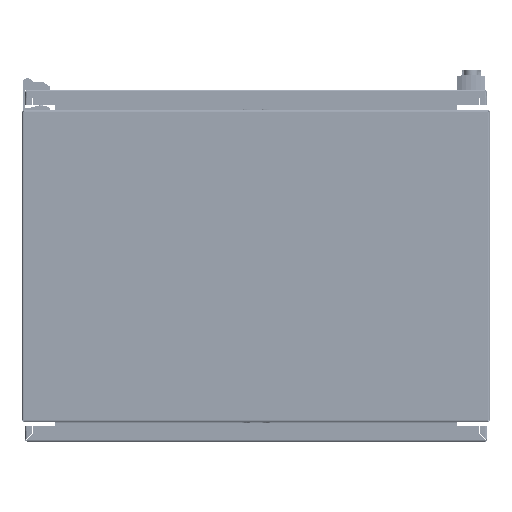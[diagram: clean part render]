
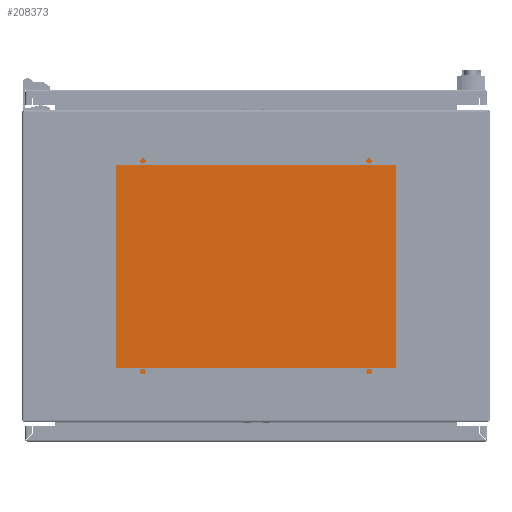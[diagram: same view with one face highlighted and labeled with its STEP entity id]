
A CAD part, front view. The second image highlights one B-rep face of the part: STEP entity #208373.
In plain terms, the highlighted planar face has unit normal (0, -1, 0).
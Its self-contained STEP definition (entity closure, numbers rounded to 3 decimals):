
#30748 = CARTESIAN_POINT ( 'NONE',  ( 144.5, 2003., 135. ) ) ;
#31502 = CARTESIAN_POINT ( 'NONE',  ( 145.5, 2003., 135. ) ) ;
#31505 = DIRECTION ( 'NONE',  ( 1., 0., 0. ) ) ;
#31508 = DIRECTION ( 'NONE',  ( 0., -1., 0. ) ) ;
#31510 = CARTESIAN_POINT ( 'NONE',  ( 145., 2003., 135. ) ) ;
#31513 = AXIS2_PLACEMENT_3D ( 'NONE', #31510, #31508, #31505 ) ;
#31516 = CIRCLE ( 'NONE', #31513, 0.5 ) ;
#35881 = CARTESIAN_POINT ( 'NONE',  ( -144.5, 2003., 135. ) ) ;
#35899 = DIRECTION ( 'NONE',  ( 1., 0., 0. ) ) ;
#35902 = DIRECTION ( 'NONE',  ( 0., -1., 0. ) ) ;
#35905 = CARTESIAN_POINT ( 'NONE',  ( -145., 2003., 135. ) ) ;
#35906 = AXIS2_PLACEMENT_3D ( 'NONE', #35905, #35902, #35899 ) ;
#35909 = CIRCLE ( 'NONE', #35906, 0.5 ) ;
#36072 = CARTESIAN_POINT ( 'NONE',  ( -145.5, 2003., 135. ) ) ;
#41359 = DIRECTION ( 'NONE',  ( 1., 0., 0. ) ) ;
#41362 = DIRECTION ( 'NONE',  ( 0., -1., 0. ) ) ;
#41364 = CARTESIAN_POINT ( 'NONE',  ( -145., 2003., -135. ) ) ;
#41366 = AXIS2_PLACEMENT_3D ( 'NONE', #41364, #41362, #41359 ) ;
#41368 = CIRCLE ( 'NONE', #41366, 0.5 ) ;
#41393 = CARTESIAN_POINT ( 'NONE',  ( -144.5, 2003., -135. ) ) ;
#41399 = CARTESIAN_POINT ( 'NONE',  ( -145.5, 2003., -135. ) ) ;
#206128 = VERTEX_POINT ( 'NONE', #30748 ) ;
#206265 = EDGE_CURVE ( 'NONE', #206128, #206268, #31516, .T. ) ;
#206268 = VERTEX_POINT ( 'NONE', #31502 ) ;
#206341 = EDGE_CURVE ( 'NONE', #206362, #206353, #35909, .T. ) ;
#206353 = VERTEX_POINT ( 'NONE', #35881 ) ;
#206362 = VERTEX_POINT ( 'NONE', #36072 ) ;
#206697 = VERTEX_POINT ( 'NONE', #41399 ) ;
#206699 = VERTEX_POINT ( 'NONE', #41393 ) ;
#206712 = EDGE_CURVE ( 'NONE', #206697, #206699, #41368, .T. ) ;
#207042 = VERTEX_POINT ( 'NONE', #250403 ) ;
#207048 = VERTEX_POINT ( 'NONE', #250401 ) ;
#207139 = EDGE_CURVE ( 'NONE', #207048, #207042, #250836, .T. ) ;
#207273 = ORIENTED_EDGE ( 'NONE', *, *, #207275, .F. ) ;
#207275 = EDGE_CURVE ( 'NONE', #206268, #206128, #251407, .T. ) ;
#207278 = ORIENTED_EDGE ( 'NONE', *, *, #206265, .F. ) ;
#207280 = EDGE_LOOP ( 'NONE', ( #207314, #208159 ) ) ;
#207314 = ORIENTED_EDGE ( 'NONE', *, *, #207316, .F. ) ;
#207316 = EDGE_CURVE ( 'NONE', #207042, #207048, #251469, .T. ) ;
#207992 = VERTEX_POINT ( 'NONE', #256023 ) ;
#207998 = ORIENTED_EDGE ( 'NONE', *, *, #208003, .T. ) ;
#208003 = EDGE_CURVE ( 'NONE', #207992, #208006, #256116, .T. ) ;
#208006 = VERTEX_POINT ( 'NONE', #256107 ) ;
#208027 = EDGE_CURVE ( 'NONE', #208031, #207992, #256137, .T. ) ;
#208031 = VERTEX_POINT ( 'NONE', #256287 ) ;
#208036 = ORIENTED_EDGE ( 'NONE', *, *, #206712, .F. ) ;
#208044 = EDGE_CURVE ( 'NONE', #206353, #206362, #256269, .T. ) ;
#208047 = ORIENTED_EDGE ( 'NONE', *, *, #206341, .F. ) ;
#208052 = EDGE_LOOP ( 'NONE', ( #207273, #207278 ) ) ;
#208159 = ORIENTED_EDGE ( 'NONE', *, *, #207139, .F. ) ;
#208161 = EDGE_LOOP ( 'NONE', ( #208167, #208036 ) ) ;
#208167 = ORIENTED_EDGE ( 'NONE', *, *, #208564, .F. ) ;
#208174 = EDGE_CURVE ( 'NONE', #208494, #208501, #256673, .T. ) ;
#208184 = ORIENTED_EDGE ( 'NONE', *, *, #208190, .T. ) ;
#208190 = EDGE_CURVE ( 'NONE', #208501, #208192, #256652, .T. ) ;
#208192 = VERTEX_POINT ( 'NONE', #256633 ) ;
#208201 = ORIENTED_EDGE ( 'NONE', *, *, #208224, .F. ) ;
#208224 = EDGE_CURVE ( 'NONE', #208228, #208192, #256803, .T. ) ;
#208228 = VERTEX_POINT ( 'NONE', #256795 ) ;
#208235 = ORIENTED_EDGE ( 'NONE', *, *, #208238, .T. ) ;
#208238 = EDGE_CURVE ( 'NONE', #208228, #208031, #256791, .T. ) ;
#208251 = EDGE_LOOP ( 'NONE', ( #208570, #207998, #208470, #208487, #208497, #208184, #208201, #208235 ) ) ;
#208373 = ADVANCED_FACE ( 'NONE', ( #258035, #258033, #258030, #258026, #258023 ), #258116, .T. ) ;
#208380 = EDGE_LOOP ( 'NONE', ( #208382, #208047 ) ) ;
#208382 = ORIENTED_EDGE ( 'NONE', *, *, #208044, .F. ) ;
#208470 = ORIENTED_EDGE ( 'NONE', *, *, #208476, .F. ) ;
#208476 = EDGE_CURVE ( 'NONE', #208481, #208006, #258371, .T. ) ;
#208481 = VERTEX_POINT ( 'NONE', #258366 ) ;
#208487 = ORIENTED_EDGE ( 'NONE', *, *, #208492, .T. ) ;
#208492 = EDGE_CURVE ( 'NONE', #208481, #208494, #255850, .T. ) ;
#208494 = VERTEX_POINT ( 'NONE', #255841 ) ;
#208497 = ORIENTED_EDGE ( 'NONE', *, *, #208174, .T. ) ;
#208501 = VERTEX_POINT ( 'NONE', #255838 ) ;
#208564 = EDGE_CURVE ( 'NONE', #206699, #206697, #256067, .T. ) ;
#208570 = ORIENTED_EDGE ( 'NONE', *, *, #208027, .T. ) ;
#250401 = CARTESIAN_POINT ( 'NONE',  ( 144.5, 2003., -135. ) ) ;
#250403 = CARTESIAN_POINT ( 'NONE',  ( 145.5, 2003., -135. ) ) ;
#250830 = DIRECTION ( 'NONE',  ( 1., 0., 0. ) ) ;
#250832 = DIRECTION ( 'NONE',  ( 0., -1., 0. ) ) ;
#250834 = CARTESIAN_POINT ( 'NONE',  ( 145., 2003., -135. ) ) ;
#250835 = AXIS2_PLACEMENT_3D ( 'NONE', #250834, #250832, #250830 ) ;
#250836 = CIRCLE ( 'NONE', #250835, 0.5 ) ;
#251400 = DIRECTION ( 'NONE',  ( 1., 0., 0. ) ) ;
#251401 = DIRECTION ( 'NONE',  ( 0., -1., 0. ) ) ;
#251403 = CARTESIAN_POINT ( 'NONE',  ( 145., 2003., 135. ) ) ;
#251405 = AXIS2_PLACEMENT_3D ( 'NONE', #251403, #251401, #251400 ) ;
#251407 = CIRCLE ( 'NONE', #251405, 0.5 ) ;
#251463 = DIRECTION ( 'NONE',  ( 1., 0., 0. ) ) ;
#251465 = DIRECTION ( 'NONE',  ( 0., -1., 0. ) ) ;
#251466 = CARTESIAN_POINT ( 'NONE',  ( 145., 2003., -135. ) ) ;
#251468 = AXIS2_PLACEMENT_3D ( 'NONE', #251466, #251465, #251463 ) ;
#251469 = CIRCLE ( 'NONE', #251468, 0.5 ) ;
#255838 = CARTESIAN_POINT ( 'NONE',  ( 209.343, 2003., 160.536 ) ) ;
#255841 = CARTESIAN_POINT ( 'NONE',  ( 210.536, 2003., 159.343 ) ) ;
#255844 = DIRECTION ( 'NONE',  ( 0., 0., 1. ) ) ;
#255846 = VECTOR ( 'NONE', #255844, 1000. ) ;
#255848 = CARTESIAN_POINT ( 'NONE',  ( 210.536, 2003., -164. ) ) ;
#255850 = LINE ( 'NONE', #255848, #255846 ) ;
#256023 = CARTESIAN_POINT ( 'NONE',  ( -209.343, 2003., -160.536 ) ) ;
#256060 = DIRECTION ( 'NONE',  ( 1., 0., 0. ) ) ;
#256063 = DIRECTION ( 'NONE',  ( 0., -1., 0. ) ) ;
#256065 = AXIS2_PLACEMENT_3D ( 'NONE', #256080, #256063, #256060 ) ;
#256067 = CIRCLE ( 'NONE', #256065, 0.5 ) ;
#256080 = CARTESIAN_POINT ( 'NONE',  ( -145., 2003., -135. ) ) ;
#256107 = CARTESIAN_POINT ( 'NONE',  ( 209.343, 2003., -160.536 ) ) ;
#256111 = DIRECTION ( 'NONE',  ( 1., 0., 0. ) ) ;
#256113 = VECTOR ( 'NONE', #256111, 1000. ) ;
#256115 = CARTESIAN_POINT ( 'NONE',  ( -214., 2003., -160.536 ) ) ;
#256116 = LINE ( 'NONE', #256115, #256113 ) ;
#256137 = LINE ( 'NONE', #256295, #256291 ) ;
#256264 = DIRECTION ( 'NONE',  ( 1., 0., 0. ) ) ;
#256265 = DIRECTION ( 'NONE',  ( 0., -1., 0. ) ) ;
#256266 = CARTESIAN_POINT ( 'NONE',  ( -145., 2003., 135. ) ) ;
#256267 = AXIS2_PLACEMENT_3D ( 'NONE', #256266, #256265, #256264 ) ;
#256269 = CIRCLE ( 'NONE', #256267, 0.5 ) ;
#256287 = CARTESIAN_POINT ( 'NONE',  ( -210.536, 2003., -159.343 ) ) ;
#256290 = DIRECTION ( 'NONE',  ( 0.707, 0., -0.707 ) ) ;
#256291 = VECTOR ( 'NONE', #256290, 1000. ) ;
#256295 = CARTESIAN_POINT ( 'NONE',  ( -209.939, 2003., -159.939 ) ) ;
#256633 = CARTESIAN_POINT ( 'NONE',  ( -209.343, 2003., 160.536 ) ) ;
#256636 = DIRECTION ( 'NONE',  ( -1., 0., 0. ) ) ;
#256637 = VECTOR ( 'NONE', #256636, 1000. ) ;
#256652 = LINE ( 'NONE', #256662, #256637 ) ;
#256662 = CARTESIAN_POINT ( 'NONE',  ( -214., 2003., 160.536 ) ) ;
#256668 = DIRECTION ( 'NONE',  ( -0.707, 0., 0.707 ) ) ;
#256669 = VECTOR ( 'NONE', #256668, 1000. ) ;
#256672 = CARTESIAN_POINT ( 'NONE',  ( 159.939, 2003., 209.939 ) ) ;
#256673 = LINE ( 'NONE', #256672, #256669 ) ;
#256791 = LINE ( 'NONE', #256932, #256930 ) ;
#256795 = CARTESIAN_POINT ( 'NONE',  ( -210.536, 2003., 159.343 ) ) ;
#256796 = DIRECTION ( 'NONE',  ( 0.707, 0., 0.707 ) ) ;
#256799 = VECTOR ( 'NONE', #256796, 1000. ) ;
#256801 = CARTESIAN_POINT ( 'NONE',  ( -209.939, 2003., 159.939 ) ) ;
#256803 = LINE ( 'NONE', #256801, #256799 ) ;
#256929 = DIRECTION ( 'NONE',  ( 0., 0., -1. ) ) ;
#256930 = VECTOR ( 'NONE', #256929, 1000. ) ;
#256932 = CARTESIAN_POINT ( 'NONE',  ( -210.536, 2003., -164. ) ) ;
#258023 = FACE_OUTER_BOUND ( 'NONE', #208251, .T. ) ;
#258026 = FACE_BOUND ( 'NONE', #208161, .T. ) ;
#258030 = FACE_BOUND ( 'NONE', #207280, .T. ) ;
#258033 = FACE_BOUND ( 'NONE', #208052, .T. ) ;
#258035 = FACE_BOUND ( 'NONE', #208380, .T. ) ;
#258107 = DIRECTION ( 'NONE',  ( 1., 0., 0. ) ) ;
#258108 = DIRECTION ( 'NONE',  ( 0., -1., 0. ) ) ;
#258110 = CARTESIAN_POINT ( 'NONE',  ( -214., 2003., -164. ) ) ;
#258111 = AXIS2_PLACEMENT_3D ( 'NONE', #258110, #258108, #258107 ) ;
#258116 = PLANE ( 'NONE',  #258111 ) ;
#258366 = CARTESIAN_POINT ( 'NONE',  ( 210.536, 2003., -159.343 ) ) ;
#258367 = DIRECTION ( 'NONE',  ( -0.707, 0., -0.707 ) ) ;
#258369 = VECTOR ( 'NONE', #258367, 1000. ) ;
#258370 = CARTESIAN_POINT ( 'NONE',  ( 209.939, 2003., -159.939 ) ) ;
#258371 = LINE ( 'NONE', #258370, #258369 ) ;
